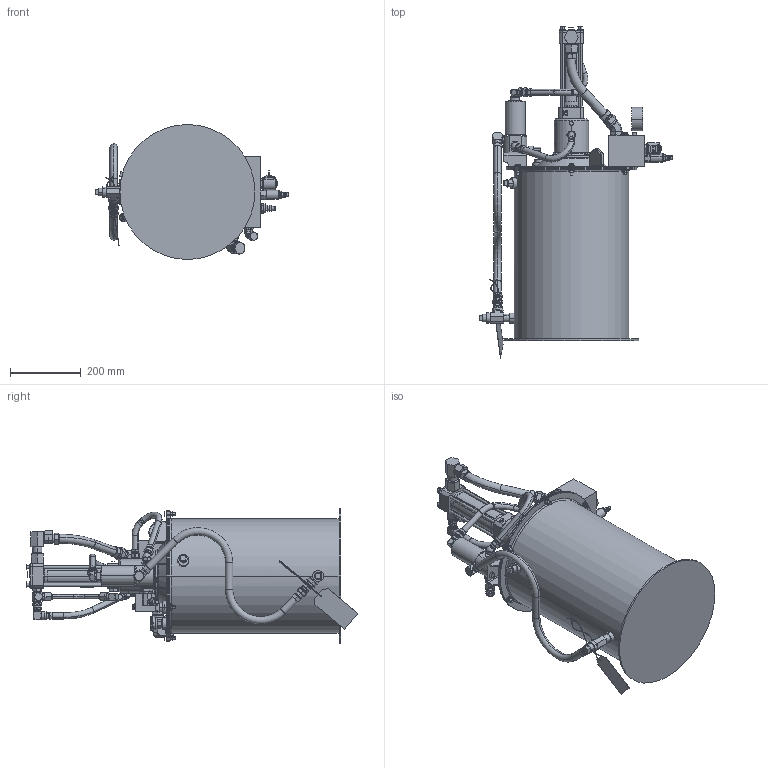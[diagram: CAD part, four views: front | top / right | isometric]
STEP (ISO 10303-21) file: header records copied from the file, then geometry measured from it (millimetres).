
FILE_DESCRIPTION((''),'2;1');
FILE_NAME('247574-EN-P_PRT','2022-10-27T14:09:25',('qusrh3'),(''),'CREO PARAMETRIC BY PTC INC, 2021072','CREO PARAMETRIC BY PTC INC, 2021072','');
FILE_SCHEMA(('CONFIG_CONTROL_DESIGN'));
Products named in the file (1): 247574-EN-P_PRT
Bounding box: 546.76 x 936.83 x 381 mm (x, y, z)
Surface area: 1797098.1 mm2 (no closed solid volume)
Topology: 0 solids, 262 shells, 1690 faces, 5038 edges, 3517 vertices
Faces by surface type: plane 647, cone 630, cylinder 334, torus 60, bspline 16, sphere 3
Entity records: 66183 total; most frequent: CARTESIAN_POINT 24544, DIRECTION 8138, ORIENTED_EDGE 8042, EDGE_CURVE 5033, VERTEX_POINT 3517, AXIS2_PLACEMENT_3D 3188, VECTOR 1762, LINE 1762
